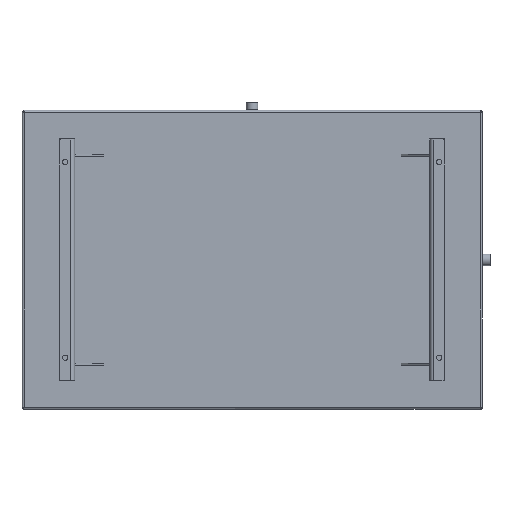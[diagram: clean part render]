
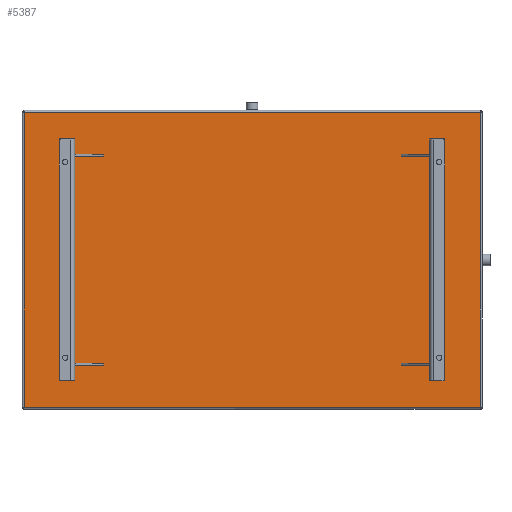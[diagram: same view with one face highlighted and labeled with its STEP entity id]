
A CAD part, front view. The second image highlights one B-rep face of the part: STEP entity #5387.
In plain terms, the highlighted planar face has unit normal (0, -1, 0).
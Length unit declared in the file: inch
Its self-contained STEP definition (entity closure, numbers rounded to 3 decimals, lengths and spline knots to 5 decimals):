
#65 = DIRECTION ( 'NONE',  ( -1., 0., 0. ) ) ;
#80 = LINE ( 'NONE', #1072, #1865 ) ;
#148 = DIRECTION ( 'NONE',  ( 0., 0., 1. ) ) ;
#181 = CARTESIAN_POINT ( 'NONE',  ( 17.41569, 3.50436, 19.73198 ) ) ;
#330 = ORIENTED_EDGE ( 'NONE', *, *, #4387, .T. ) ;
#365 = VECTOR ( 'NONE', #2022, 39.37008 ) ;
#513 = LINE ( 'NONE', #181, #3695 ) ;
#714 = EDGE_LOOP ( 'NONE', ( #2006, #3208, #4815, #330 ) ) ;
#1072 = CARTESIAN_POINT ( 'NONE',  ( 17.29404, 3.50436, -18.83646 ) ) ;
#1561 = VERTEX_POINT ( 'NONE', #4266 ) ;
#1865 = VECTOR ( 'NONE', #148, 39.37008 ) ;
#2006 = ORIENTED_EDGE ( 'NONE', *, *, #4674, .T. ) ;
#2022 = DIRECTION ( 'NONE',  ( 1., 0., 0. ) ) ;
#2026 = DIRECTION ( 'NONE',  ( 0., 0., -1. ) ) ;
#2027 = CARTESIAN_POINT ( 'NONE',  ( -42.2744, 3.50436, -18.71482 ) ) ;
#2032 = PLANE ( 'NONE',  #2491 ) ;
#2043 = DIRECTION ( 'NONE',  ( 0., -1., 0. ) ) ;
#2088 = CARTESIAN_POINT ( 'NONE',  ( -42.42936, 3.50436, -18.99142 ) ) ;
#2275 = LINE ( 'NONE', #2027, #365 ) ;
#2491 = AXIS2_PLACEMENT_3D ( 'NONE', #2088, #2043, #2026 ) ;
#2625 = CARTESIAN_POINT ( 'NONE',  ( -42.15276, 3.50436, 19.85363 ) ) ;
#2755 = CARTESIAN_POINT ( 'NONE',  ( 17.29404, 3.50436, -18.71482 ) ) ;
#2762 = VERTEX_POINT ( 'NONE', #2755 ) ;
#3057 = CARTESIAN_POINT ( 'NONE',  ( 17.29404, 3.50436, 19.73198 ) ) ;
#3208 = ORIENTED_EDGE ( 'NONE', *, *, #4638, .T. ) ;
#3450 = CARTESIAN_POINT ( 'NONE',  ( -42.15276, 3.50436, 19.73198 ) ) ;
#3695 = VECTOR ( 'NONE', #65, 39.37008 ) ;
#3875 = DIRECTION ( 'NONE',  ( 0., 0., -1. ) ) ;
#4266 = CARTESIAN_POINT ( 'NONE',  ( -42.15276, 3.50436, -18.71482 ) ) ;
#4387 = EDGE_CURVE ( 'NONE', #1561, #2762, #2275, .T. ) ;
#4453 = VECTOR ( 'NONE', #3875, 39.37008 ) ;
#4617 = LINE ( 'NONE', #2625, #4453 ) ;
#4638 = EDGE_CURVE ( 'NONE', #5076, #4895, #513, .T. ) ;
#4672 = EDGE_CURVE ( 'NONE', #4895, #1561, #4617, .T. ) ;
#4674 = EDGE_CURVE ( 'NONE', #2762, #5076, #80, .T. ) ;
#4815 = ORIENTED_EDGE ( 'NONE', *, *, #4672, .T. ) ;
#4895 = VERTEX_POINT ( 'NONE', #3450 ) ;
#5076 = VERTEX_POINT ( 'NONE', #3057 ) ;
#5279 = FACE_OUTER_BOUND ( 'NONE', #714, .T. ) ;
#5387 = ADVANCED_FACE ( 'NONE', ( #5279 ), #2032, .T. ) ;
